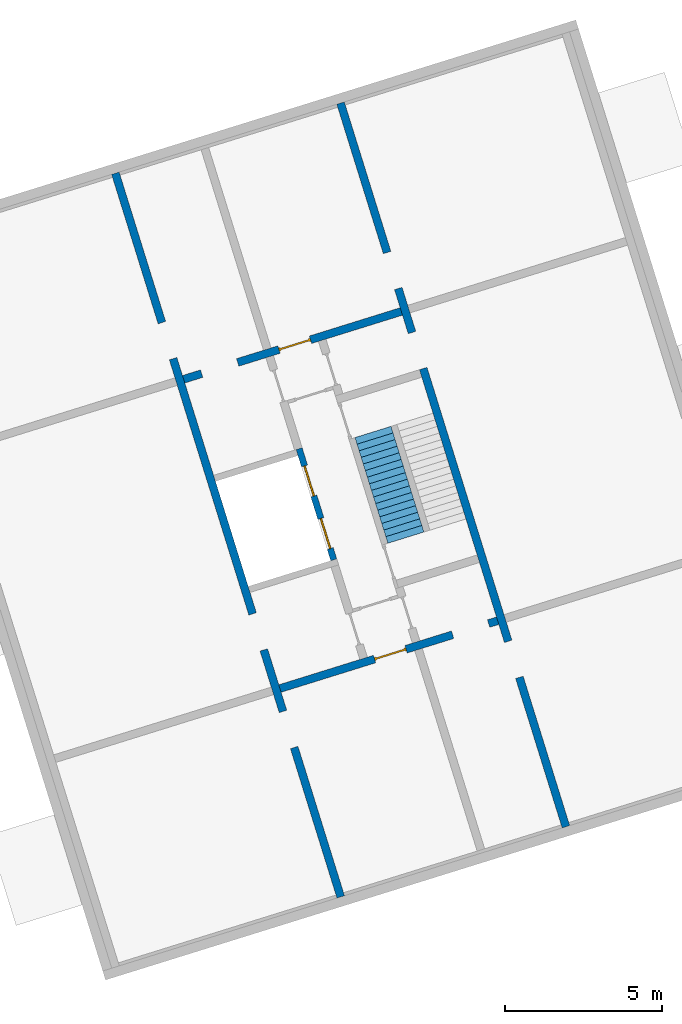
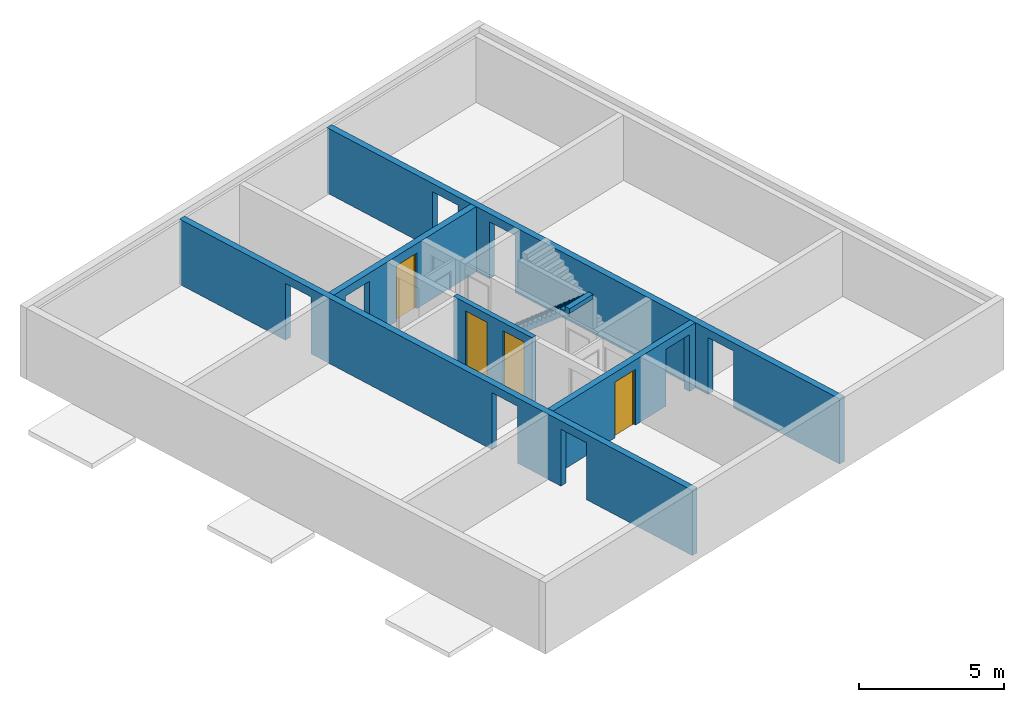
# One storey, part 3 of 4: 5 walls, 4 doors, 1 stair flight, 12 openings, 1 element without a shape of its own.
"""IFC4 building model written with IfcOpenShell, lengths in metres."""

from ifc_helpers import new_model, entity, si_unit, converted_unit, direction, frame, origin, place, context, subcontext, project, spatial, indexed_curve, outline, extrude, polygons, source, transform, mapped, material, constituent, constituent_set, type_object, type_shapes, element, fill, aggregate, save


model = new_model("IFC4")

# Units and contexts
model_context = context("Model", 3, precision=1e-05, world=origin(), true_north=direction((6.12323399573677e-17, 1.0)))
body_context = subcontext(model_context, "Body", "Model", "MODEL_VIEW")
ifc_project = project(units=[si_unit("LENGTHUNIT", "METRE"), si_unit("AREAUNIT", "SQUARE_METRE"), si_unit("VOLUMEUNIT", "CUBIC_METRE"), converted_unit("PLANEANGLEUNIT", "DEGREE", entity("IfcPlaneAngleMeasure", 0.0174532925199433), si_unit("PLANEANGLEUNIT", "RADIAN"), dimensions=[0, 0, 0, 0, 0, 0, 0])], contexts=[model_context])

# Site, building, storey
site_placement = place(None, frame((13.1347999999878, 11.9886000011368, 0.0), z_axis=(0.0, 0.0, 1.0), x_axis=(0.954770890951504, 0.297342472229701, 0.0)))
site = spatial("IfcSite", under=ifc_project, at=site_placement, Name="Schiehaven", CompositionType="ELEMENT")
building_placement = place(site_placement, origin())
building = spatial("IfcBuilding", under=site, at=building_placement, Name="VORM huis", CompositionType="ELEMENT")
storey_placement = place(building_placement, frame((0.0, 0.0, 15.9)))
storey = spatial("IfcBuildingStorey", under=building, at=storey_placement, Name="05 vijfde verdieping", CompositionType="ELEMENT", Elevation=15.9)

# Wall, openings
ifc_material_1 = material(Name="beton_gewapend_ihw", Category="Miscellaneous")
wall_type_1 = type_object("IfcWallType", Name="Basic Wall:28_WA_skelet_wand 250mm_gen", PredefinedType="STANDARD")
wall_1_placement = place(storey_placement, frame((12.5, 5.0, 0.0), z_axis=(0.0, 0.0, 1.0), x_axis=(0.0, 1.0, 0.0)))
wall_1 = element("IfcWall", 1, at=wall_1_placement, inside=storey, type_object=wall_type_1, material=ifc_material_1, Name="Constructieve wand", ObjectType="Wand", PredefinedType="NOTDEFINED", context=body_context, shape_type="Tessellation", body=[
    polygons([(24.1, -0.125, -2.16573425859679e-15), (24.1, -0.125, 2.75), (17.325, -0.124999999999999, 2.75), (17.075, -0.125, 2.75), (7.025, -0.124999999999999, 2.75), (6.775, -0.125, 2.75), (2.16573425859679e-15, -0.124999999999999, 2.75), (2.16573425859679e-15, -0.124999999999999, -2.16573425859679e-15), (4.975, -0.124999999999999, -2.16573425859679e-15), (4.975, -0.124999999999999, 2.4), (6.175, -0.124999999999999, 2.4), (6.175, -0.124999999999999, -2.16573425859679e-15), (6.775, -0.125, -2.16573425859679e-15), (7.025, -0.124999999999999, -2.16573425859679e-15), (8.22500000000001, -0.124999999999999, -2.16573425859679e-15), (8.22500000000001, -0.124999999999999, 2.4), (9.425, -0.124999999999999, 2.4), (9.425, -0.124999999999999, -2.16573425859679e-15), (17.075, -0.125, -2.16573425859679e-15), (17.325, -0.124999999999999, -2.16573425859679e-15), (17.925, -0.125, -2.16573425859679e-15), (17.925, -0.125, 2.4), (19.125, -0.125, 2.4), (19.125, -0.125, -2.16573425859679e-15), (24.1, 0.125, 2.75), (24.1, 0.125, -2.16573425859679e-15), (19.125, 0.125, -2.16573425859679e-15), (19.125, 0.125, 2.4), (17.925, 0.125, 2.4), (17.925, 0.125, -2.16573425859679e-15), (9.425, 0.125, -2.16573425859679e-15), (9.425, 0.125, 2.4), (8.225, 0.125, 2.4), (8.225, 0.125, -2.16573425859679e-15), (6.175, 0.125, -2.16573425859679e-15), (6.175, 0.125, 2.4), (4.975, 0.125000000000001, 2.4), (4.975, 0.125000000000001, -2.16573425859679e-15), (1.08286712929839e-15, 0.125, -2.16573425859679e-15), (0.0, 0.125, 2.75)], [[[1, 2, 3, 4, 5, 6, 7, 8, 9, 10, 11, 12, 13, 14, 15, 16, 17, 18, 19, 20, 21, 22, 23, 24]], [[25, 26, 27, 28, 29, 30, 31, 32, 33, 34, 35, 36, 37, 38, 39, 40]], [[8, 39, 38, 9]], [[2, 1, 26, 25]], [[7, 6, 5, 4, 3, 2, 25, 40]], [[8, 7, 40, 39]], [[10, 37, 36, 11]], [[37, 10, 9, 38]], [[11, 36, 35, 12]], [[16, 33, 32, 17]], [[33, 16, 15, 34]], [[17, 32, 31, 18]], [[22, 29, 28, 23]], [[29, 22, 21, 30]], [[23, 28, 27, 24]], [[12, 35, 34, 15, 14, 13]], [[18, 31, 30, 21, 20, 19]], [[26, 1, 24, 27]]], closed=True),
])
opening_1_placement = place(wall_1_placement, origin())
element("IfcOpeningElement", 2, at=opening_1_placement, cuts=wall_1, Name="Constructieve wand", PredefinedType="OPENING", context=body_context, shape_type="SweptSolid", body=[
    extrude(outline(indexed_curve([(-1.2, -0.599999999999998), (1.2, -0.599999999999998), (1.2, 0.599999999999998), (-1.2, 0.599999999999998), (-1.2, -0.599999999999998)], self_intersect=False)), frame((5.575, -0.124999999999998, 1.2), z_axis=(0.0, 1.0, 0.0), x_axis=(0.0, 0.0, -1.0)), (0.0, 0.0, 1.0), 0.249999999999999),
])
opening_2_placement = place(wall_1_placement, origin())
element("IfcOpeningElement", 3, at=opening_2_placement, cuts=wall_1, Name="Constructieve wand", PredefinedType="OPENING", context=body_context, shape_type="SweptSolid", body=[
    extrude(outline(indexed_curve([(-1.2, -0.599999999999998), (1.2, -0.599999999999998), (1.2, 0.599999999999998), (-1.2, 0.599999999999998), (-1.2, -0.599999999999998)], self_intersect=False)), frame((8.82500000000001, -0.124999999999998, 1.2), z_axis=(0.0, 1.0, 0.0), x_axis=(0.0, 0.0, -1.0)), (0.0, 0.0, 1.0), 0.249999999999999),
])
opening_3_placement = place(wall_1_placement, origin())
element("IfcOpeningElement", 4, at=opening_3_placement, cuts=wall_1, Name="Constructieve wand", PredefinedType="OPENING", context=body_context, shape_type="SweptSolid", body=[
    extrude(outline(indexed_curve([(-1.2, -0.599999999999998), (1.2, -0.599999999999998), (1.2, 0.600000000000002), (-1.2, 0.600000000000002), (-1.2, -0.599999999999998)], self_intersect=False)), frame((18.525, -0.124999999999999, 1.2), z_axis=(0.0, 1.0, 0.0), x_axis=(0.0, 0.0, -1.0)), (0.0, 0.0, 1.0), 0.249999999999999),
])

# Wall, openings, door
wall_2_placement = place(storey_placement, frame((12.6250000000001, 22.2, 0.0)))
wall_2 = element("IfcWall", 5, at=wall_2_placement, inside=storey, type_object=wall_type_1, material=ifc_material_1, Name="Constructieve wand", ObjectType="Wand", PredefinedType="NOTDEFINED", context=body_context, shape_type="Tessellation", body=[
    polygons([(4.225, -0.124999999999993, 2.34999999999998), (4.225, -0.124999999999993, -2.16573425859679e-15), (7.25, -0.124999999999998, -2.16573425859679e-15), (7.25, -0.124999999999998, 2.75), (8.76648531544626e-16, -0.124999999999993, 2.75), (3.04238279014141e-15, -0.124999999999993, -2.16573425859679e-15), (0.600000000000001, -0.124999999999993, -2.16573425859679e-15), (0.600000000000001, -0.124999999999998, 2.4), (1.8, -0.124999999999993, 2.4), (1.8, -0.124999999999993, -2.16573425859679e-15), (3.175, -0.124999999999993, -2.16573425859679e-15), (3.175, -0.124999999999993, 2.34999999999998), (7.25000000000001, 0.125000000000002, -2.16573425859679e-15), (4.225, 0.125000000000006, -2.16573425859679e-15), (4.225, 0.125000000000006, 2.34999999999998), (3.175, 0.125000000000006, 2.34999999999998), (3.175, 0.125000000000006, -2.16573425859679e-15), (1.8, 0.125000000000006, -2.16573425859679e-15), (1.8, 0.125000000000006, 2.4), (0.6, 0.125000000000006, 2.4), (0.6, 0.125000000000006, -2.16573425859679e-15), (2.09575778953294e-15, 0.125000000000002, -2.16573425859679e-15), (2.09575778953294e-15, 0.125000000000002, 2.75), (7.25000000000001, 0.125000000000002, 2.75)], [[[1, 2, 3, 4, 5, 6, 7, 8, 9, 10, 11, 12]], [[13, 14, 15, 16, 17, 18, 19, 20, 21, 22, 23, 24]], [[6, 22, 21, 7]], [[5, 4, 24, 23]], [[17, 16, 12, 11]], [[15, 14, 2, 1]], [[16, 15, 1, 12]], [[20, 8, 7, 21]], [[9, 19, 18, 10]], [[8, 20, 19, 9]], [[4, 3, 13, 24]], [[6, 5, 23, 22]], [[11, 10, 18, 17]], [[3, 2, 14, 13]]], closed=True),
])
opening_4_placement = place(wall_2_placement, origin())
element("IfcOpeningElement", 6, at=opening_4_placement, cuts=wall_2, Name="Constructieve wand", PredefinedType="OPENING", context=body_context, shape_type="SweptSolid", body=[
    extrude(outline(indexed_curve([(-1.2, -0.6), (1.2, -0.6), (1.2, 0.6), (-1.2, 0.6), (-1.2, -0.6)], self_intersect=False)), frame((1.2, -0.125000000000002, 1.2), z_axis=(0.0, 1.0, 0.0), x_axis=(0.0, 0.0, -1.0)), (0.0, 0.0, 1.0), 0.250000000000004),
])
opening_5_placement = place(wall_2_placement, frame((4.225, 0.124999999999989, 0.0)))
opening_5 = element("IfcOpeningElement", 7, at=opening_5_placement, cuts=wall_2, Name="Woningtoegangsdeur", PredefinedType="OPENING", context=body_context, shape_type="SweptSolid", body=[
    extrude(outline(indexed_curve([(2.34999999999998, 1.05), (0.0, 1.05), (0.0, 1.08286712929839e-15), (2.34999999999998, 1.08286712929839e-15), (2.34999999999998, 1.05)], self_intersect=False)), frame((0.0, 0.0, 0.0), z_axis=(0.0, -1.0, 0.0), x_axis=(0.0, 0.0, 1.0)), (0.0, 0.0, 1.0), 0.25),
])
ifc_material_2 = material(Name="PD_a_binnenwandopeningen", Category="Miscellaneous")
ifc_constituent_1 = constituent(ifc_material_2, Name="PD_a_binnenwandopeningen", Category="Miscellaneous")
ifc_material_3 = material(Name="metaal_aluminium_ntb", Category="Miscellaneous")
ifc_constituent_2 = constituent(ifc_material_3, Name="metaal_aluminium_ntb", Category="Miscellaneous")
ifc_constituent_set_1 = constituent_set(constituents=[ifc_constituent_1, ifc_constituent_2])
ifc_constituent_3 = constituent(ifc_material_2, Name="PD_a_binnenwandopeningen", Category="Miscellaneous")
ifc_constituent_4 = constituent(ifc_material_3, Name="Panel", Category="Miscellaneous")
ifc_constituent_set_2 = constituent_set(constituents=[ifc_constituent_3, ifc_constituent_4])
door_type_1 = type_object("IfcDoorType", Name="32_DO_binnendeur enkel:woningtoegangsdeur", OperationType="REVOLVING", PredefinedType="DOOR", material=ifc_constituent_set_2)
shared_shape_1 = source(origin(), body_context, "Body", "SweptSolid", [
    extrude(outline(indexed_curve([(-1.16249999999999, -0.525000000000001), (1.18749999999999, -0.525), (1.18749999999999, 0.525000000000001), (-1.16249999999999, 0.525000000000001), (-1.16249999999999, 0.475), (1.13749999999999, 0.475), (1.13749999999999, -0.475), (-1.16249999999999, -0.475), (-1.16249999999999, -0.525000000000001)], self_intersect=False)), frame((0.525000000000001, 0.0749999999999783, 1.16249999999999), z_axis=(0.0, 1.0, 0.0), x_axis=(0.0, 0.0, 1.0)), (0.0, 0.0, 1.0), 0.1),
    extrude(outline(indexed_curve([(-0.025, -0.475), (0.025, -0.475), (0.025, 0.475), (-0.025, 0.475), (-0.025, -0.475)], self_intersect=False)), frame((0.525000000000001, 0.12499999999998, 0.0), z_axis=(0.0, 0.0, 1.0), x_axis=(0.0, 1.0, 0.0)), (0.0, 0.0, 1.0), 2.29999999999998),
])
type_shapes(door_type_1, [shared_shape_1])
door_1_placement = place(opening_5_placement, frame((0.0, 0.0, 0.0), z_axis=(0.0, 0.0, 1.0), x_axis=(-1.0, 0.0, 0.0)))
door_1 = element("IfcDoor", 8, at=door_1_placement, inside=storey, type_object=door_type_1, material=ifc_constituent_set_1, Name="Woningtoegangsdeur", ObjectType="Deur", OperationType="REVOLVING", OverallHeight=2.34999999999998, OverallWidth=1.05, PredefinedType="DOOR", context=body_context, shape_type="MappedRepresentation", body=[
    mapped(shared_shape_1, transform((0.0, 0.0, 0.0), scale=1.0)),
])
fill(opening_5, door_1)

# Wall, openings
wall_3_placement = place(storey_placement, frame((20.0, 29.1, 0.0), z_axis=(0.0, 0.0, 1.0), x_axis=(0.0, -1.0, 0.0)))
wall_3 = element("IfcWall", 9, at=wall_3_placement, inside=storey, type_object=wall_type_1, material=ifc_material_1, Name="Constructieve wand", ObjectType="Wand", PredefinedType="NOTDEFINED", context=body_context, shape_type="Tessellation", body=[
    polygons([(24.1, -0.124999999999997, -2.16573425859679e-15), (24.1, -0.124999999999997, 2.75), (17.325, -0.124999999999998, 2.75), (17.075, -0.125, 2.75), (7.02499999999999, -0.124999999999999, 2.75), (6.77499999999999, -0.124999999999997, 2.75), (0.0, -0.124999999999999, 2.75), (0.0, -0.124999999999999, -2.16573425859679e-15), (4.975, -0.125, -2.16573425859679e-15), (4.975, -0.125000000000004, 2.4), (6.175, -0.124999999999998, 2.4), (6.175, -0.124999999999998, -2.16573425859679e-15), (6.77499999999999, -0.124999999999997, -2.16573425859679e-15), (7.02499999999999, -0.124999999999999, -2.16573425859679e-15), (7.64, -0.124999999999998, -2.16573425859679e-15), (7.64, -0.124999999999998, 2.4), (8.84, -0.124999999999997, 2.4), (8.84, -0.124999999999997, -2.16573425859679e-15), (17.075, -0.125, -2.16573425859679e-15), (17.325, -0.124999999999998, -2.16573425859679e-15), (17.925, -0.124999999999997, -2.16573425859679e-15), (17.925, -0.124999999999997, 2.4), (19.125, -0.125000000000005, 2.4), (19.125, -0.124999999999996, -2.16573425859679e-15), (24.1, 0.125000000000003, 2.75), (24.1, 0.125000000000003, -2.16573425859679e-15), (19.125, 0.124999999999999, -2.16573425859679e-15), (19.125, 0.124999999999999, 2.4), (17.925, 0.125000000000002, 2.4), (17.925, 0.125000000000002, -2.16573425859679e-15), (8.83999999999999, 0.125000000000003, -2.16573425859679e-15), (8.83999999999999, 0.125000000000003, 2.4), (7.64, 0.125000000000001, 2.4), (7.64, 0.125000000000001, -2.16573425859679e-15), (6.17499999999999, 0.125000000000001, -2.16573425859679e-15), (6.17499999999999, 0.125000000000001, 2.4), (4.975, 0.125, 2.4), (4.975, 0.125, -2.16573425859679e-15), (-4.33146851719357e-15, 0.125000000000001, -2.16573425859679e-15), (-4.33146851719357e-15, 0.125000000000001, 2.75)], [[[1, 2, 3, 4, 5, 6, 7, 8, 9, 10, 11, 12, 13, 14, 15, 16, 17, 18, 19, 20, 21, 22, 23, 24]], [[25, 26, 27, 28, 29, 30, 31, 32, 33, 34, 35, 36, 37, 38, 39, 40]], [[8, 39, 38, 9]], [[2, 1, 26, 25]], [[7, 6, 5, 4, 3, 2, 25, 40]], [[8, 7, 40, 39]], [[10, 37, 36, 11]], [[37, 10, 9, 38]], [[11, 36, 35, 12]], [[16, 33, 32, 17]], [[33, 16, 15, 34]], [[17, 32, 31, 18]], [[22, 29, 28, 23]], [[29, 22, 21, 30]], [[23, 28, 27, 24]], [[12, 35, 34, 15, 14, 13]], [[18, 31, 30, 21, 20, 19]], [[26, 1, 24, 27]]], closed=True),
])
opening_6_placement = place(wall_3_placement, origin())
element("IfcOpeningElement", 10, at=opening_6_placement, cuts=wall_3, Name="Constructieve wand", PredefinedType="OPENING", context=body_context, shape_type="SweptSolid", body=[
    extrude(outline(indexed_curve([(-1.2, -0.599999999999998), (1.2, -0.599999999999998), (1.2, 0.599999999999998), (-1.2, 0.599999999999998), (-1.2, -0.599999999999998)], self_intersect=False)), frame((5.575, -0.125000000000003, 1.2), z_axis=(0.0, 1.0, 0.0), x_axis=(0.0, 0.0, -1.0)), (0.0, 0.0, 1.0), 0.250000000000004),
])
opening_7_placement = place(wall_3_placement, origin())
element("IfcOpeningElement", 11, at=opening_7_placement, cuts=wall_3, Name="Constructieve wand", PredefinedType="OPENING", context=body_context, shape_type="SweptSolid", body=[
    extrude(outline(indexed_curve([(-1.2, -0.599999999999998), (1.2, -0.599999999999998), (1.2, 0.599999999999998), (-1.2, 0.599999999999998), (-1.2, -0.599999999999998)], self_intersect=False)), frame((8.24, -0.125000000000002, 1.2), z_axis=(0.0, 1.0, 0.0), x_axis=(0.0, 0.0, -1.0)), (0.0, 0.0, 1.0), 0.250000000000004),
])
opening_8_placement = place(wall_3_placement, origin())
element("IfcOpeningElement", 12, at=opening_8_placement, cuts=wall_3, Name="Constructieve wand", PredefinedType="OPENING", context=body_context, shape_type="SweptSolid", body=[
    extrude(outline(indexed_curve([(-1.2, -0.599999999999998), (1.2, -0.599999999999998), (1.2, 0.599999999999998), (-1.2, 0.599999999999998), (-1.2, -0.599999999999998)], self_intersect=False)), frame((18.525, -0.125000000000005, 1.2), z_axis=(0.0, 1.0, 0.0), x_axis=(0.0, 0.0, -1.0)), (0.0, 0.0, 1.0), 0.250000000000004),
])

# Wall, openings, door
wall_4_placement = place(storey_placement, frame((19.875, 11.9, 0.0), z_axis=(0.0, 0.0, 1.0), x_axis=(-1.0, 0.0, 0.0)))
wall_4 = element("IfcWall", 13, at=wall_4_placement, inside=storey, type_object=wall_type_1, material=ifc_material_1, Name="Constructieve wand", ObjectType="Wand", PredefinedType="NOTDEFINED", context=body_context, shape_type="Tessellation", body=[
    polygons([(4.09999999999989, -0.125, 2.34999999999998), (4.09999999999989, -0.125, -2.16573425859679e-15), (7.24999999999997, -0.125, -2.16573425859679e-15), (7.24999999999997, -0.125, 2.75), (-7.13030427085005e-16, -0.125, 2.75), (-7.13030427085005e-16, -0.125, -2.16573425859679e-15), (0.299999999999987, -0.125, -2.16573425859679e-15), (0.299999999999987, -0.125, 2.4), (1.49999999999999, -0.125, 2.4), (1.49999999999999, -0.125, -2.16573425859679e-15), (3.04999999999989, -0.125, -2.16573425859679e-15), (3.04999999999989, -0.125, 2.34999999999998), (7.24999999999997, 0.125, -2.16573425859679e-15), (4.09999999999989, 0.125, -2.16573425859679e-15), (4.09999999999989, 0.125, 2.34999999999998), (3.04999999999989, 0.125, 2.34999999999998), (3.04999999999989, 0.125, -2.16573425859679e-15), (1.49999999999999, 0.125, -2.16573425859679e-15), (1.49999999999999, 0.125, 2.4), (0.299999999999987, 0.125, 2.4), (0.299999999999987, 0.125, -2.16573425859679e-15), (-8.78309150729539e-16, 0.125, -2.16573425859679e-15), (-8.78309150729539e-16, 0.125, 2.75), (7.24999999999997, 0.125, 2.75)], [[[1, 2, 3, 4, 5, 6, 7, 8, 9, 10, 11, 12]], [[13, 14, 15, 16, 17, 18, 19, 20, 21, 22, 23, 24]], [[6, 22, 21, 7]], [[5, 4, 24, 23]], [[17, 16, 12, 11]], [[15, 14, 2, 1]], [[16, 15, 1, 12]], [[8, 20, 19, 9]], [[20, 8, 7, 21]], [[9, 19, 18, 10]], [[6, 5, 23, 22]], [[4, 3, 13, 24]], [[11, 10, 18, 17]], [[3, 2, 14, 13]]], closed=True),
])
opening_9_placement = place(wall_4_placement, origin())
element("IfcOpeningElement", 14, at=opening_9_placement, cuts=wall_4, Name="Constructieve wand", PredefinedType="OPENING", context=body_context, shape_type="SweptSolid", body=[
    extrude(outline(indexed_curve([(-1.2, -0.599999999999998), (1.2, -0.599999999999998), (1.2, 0.600000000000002), (-1.2, 0.600000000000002), (-1.2, -0.599999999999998)], self_intersect=False)), frame((0.89999999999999, -0.125, 1.2), z_axis=(0.0, 1.0, 0.0), x_axis=(0.0, 0.0, -1.0)), (0.0, 0.0, 1.0), 0.249999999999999),
])
opening_10_placement = place(wall_4_placement, frame((4.09999999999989, 0.124999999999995, 0.0)))
opening_10 = element("IfcOpeningElement", 15, at=opening_10_placement, cuts=wall_4, Name="Woningtoegangsdeur", PredefinedType="OPENING", context=body_context, shape_type="SweptSolid", body=[
    extrude(outline(indexed_curve([(2.34999999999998, 1.05), (0.0, 1.05), (0.0, 1.08286712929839e-15), (2.34999999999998, 1.08286712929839e-15), (2.34999999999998, 1.05)], self_intersect=False)), frame((0.0, 0.0, 0.0), z_axis=(0.0, -1.0, 0.0), x_axis=(0.0, 0.0, 1.0)), (0.0, 0.0, 1.0), 0.25),
])
ifc_constituent_5 = constituent(ifc_material_2, Name="PD_a_binnenwandopeningen", Category="Miscellaneous")
ifc_constituent_6 = constituent(ifc_material_3, Name="metaal_aluminium_ntb", Category="Miscellaneous")
ifc_constituent_set_3 = constituent_set(constituents=[ifc_constituent_5, ifc_constituent_6])
door_2_placement = place(opening_10_placement, frame((0.0, 0.0, 0.0), z_axis=(0.0, 0.0, 1.0), x_axis=(-1.0, 0.0, 0.0)))
door_2 = element("IfcDoor", 16, at=door_2_placement, inside=storey, type_object=door_type_1, material=ifc_constituent_set_3, Name="Woningtoegangsdeur", ObjectType="Deur", OperationType="REVOLVING", OverallHeight=2.34999999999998, OverallWidth=1.05, PredefinedType="DOOR", context=body_context, shape_type="MappedRepresentation", body=[
    mapped(shared_shape_1, transform((0.0, 0.0, 0.0), scale=1.0)),
])
fill(opening_10, door_2)

# Wall, openings, doors
ifc_material_4 = material(Name="beton_gewapend_prefab-element", Category="Miscellaneous")
wall_type_2 = type_object("IfcWallType", Name="Basic Wall:28_WA_skelet_wand 200mm_gen", PredefinedType="STANDARD")
wall_5_placement = place(storey_placement, frame((15.4750000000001, 15.3, 0.0), z_axis=(0.0, 0.0, 1.0), x_axis=(0.0, 1.0, 0.0)))
wall_5 = element("IfcWall", 17, at=wall_5_placement, inside=storey, type_object=wall_type_2, material=ifc_material_4, Name="Constructieve wand", ObjectType="Wand", PredefinedType="NOTDEFINED", context=body_context, shape_type="Tessellation", body=[
    polygons([(3.69999999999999, -0.100000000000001, 2.75), (0.0, -0.100000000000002, 2.75), (0.0, -0.100000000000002, -2.16573425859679e-15), (0.374999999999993, -0.0999999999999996, -2.16573425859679e-15), (0.374999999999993, -0.100000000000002, 2.39999999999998), (1.37499999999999, -0.100000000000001, 2.39999999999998), (1.37499999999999, -0.100000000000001, -2.16573425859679e-15), (2.125, -0.100000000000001, -2.16573425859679e-15), (2.125, -0.100000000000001, 2.39999999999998), (3.125, -0.100000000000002, 2.39999999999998), (3.12499999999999, -0.1, -2.16573425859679e-15), (3.69999999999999, -0.100000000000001, -2.16573425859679e-15), (2.16573425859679e-15, 0.0999999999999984, 2.75), (3.49999999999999, 0.0999999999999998, 2.75), (3.69999999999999, 0.0999999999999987, 2.75), (3.69999999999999, 0.0999999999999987, -2.16573425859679e-15), (3.49999999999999, 0.0999999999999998, -2.16573425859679e-15), (3.125, 0.0999999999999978, -2.16573425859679e-15), (3.125, 0.0999999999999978, 2.39999999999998), (2.125, 0.0999999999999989, 2.39999999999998), (2.125, 0.0999999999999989, -2.16573425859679e-15), (1.37499999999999, 0.100000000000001, -2.16573425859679e-15), (1.37499999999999, 0.100000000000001, 2.39999999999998), (0.374999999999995, 0.0999999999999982, 2.39999999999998), (0.374999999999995, 0.0999999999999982, -2.16573425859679e-15), (0.0, 0.0999999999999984, -2.16573425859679e-15)], [[[1, 2, 3, 4, 5, 6, 7, 8, 9, 10, 11, 12]], [[13, 14, 15, 16, 17, 18, 19, 20, 21, 22, 23, 24, 25, 26]], [[4, 3, 26, 25]], [[2, 1, 15, 14, 13]], [[6, 23, 22, 7]], [[24, 5, 4, 25]], [[23, 6, 5, 24]], [[10, 19, 18, 11]], [[20, 9, 8, 21]], [[19, 10, 9, 20]], [[1, 12, 16, 15]], [[3, 2, 13, 26]], [[7, 22, 21, 8]], [[16, 12, 11, 18, 17]]], closed=True),
])
opening_11_placement = place(wall_5_placement, frame((-15.3, 15.4750000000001, 0.0), z_axis=(0.0, 0.0, 1.0), x_axis=(0.0, -1.0, 0.0)))
opening_11 = element("IfcOpeningElement", 18, at=opening_11_placement, cuts=wall_5, Name="Brandweerlift", PredefinedType="OPENING", context=body_context, shape_type="SweptSolid", body=[
    extrude(outline(indexed_curve([(-1.19999999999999, -0.499999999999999), (1.19999999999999, -0.499999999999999), (1.19999999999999, 0.500000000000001), (-1.19999999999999, 0.500000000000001), (-1.19999999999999, -0.499999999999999)], self_intersect=False)), frame((15.7436720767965, 16.175, 1.19999999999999), z_axis=(-1.0, 0.0, 0.0), x_axis=(0.0, 0.0, -1.0)), (0.0, 0.0, 1.0), 0.756310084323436),
])
opening_12_placement = place(wall_5_placement, frame((-15.3, 15.4750000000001, 0.0), z_axis=(0.0, 0.0, 1.0), x_axis=(0.0, -1.0, 0.0)))
opening_12 = element("IfcOpeningElement", 19, at=opening_12_placement, cuts=wall_5, Name="Brandweerlift", PredefinedType="OPENING", context=body_context, shape_type="SweptSolid", body=[
    extrude(outline(indexed_curve([(-1.19999999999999, -0.500000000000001), (1.19999999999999, -0.500000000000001), (1.19999999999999, 0.499999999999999), (-1.19999999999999, 0.499999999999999), (-1.19999999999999, -0.500000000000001)], self_intersect=False)), frame((15.7436720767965, 17.925, 1.19999999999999), z_axis=(-1.0, 0.0, 0.0), x_axis=(0.0, 0.0, -1.0)), (0.0, 0.0, 1.0), 0.756310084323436),
])
door_type_2 = type_object("IfcDoorType", Name="66_WI_liftdeur:brandweerlift - tweezijdig toegankelijk", OperationType="NOTDEFINED", PredefinedType="DOOR", material=ifc_material_3)
shared_shape_2 = source(origin(), body_context, "Body", "SweptSolid", [
    extrude(outline(indexed_curve([(-0.0250000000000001, -0.25), (0.0249999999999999, -0.25), (0.0250000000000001, 0.25), (-0.0249999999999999, 0.25), (-0.0250000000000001, -0.25)], self_intersect=False)), frame((0.250000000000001, 0.487638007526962, 0.0), z_axis=(0.0, 0.0, 1.0), x_axis=(0.0, 1.0, 0.0)), (0.0, 0.0, 1.0), 2.39999999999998),
    extrude(outline(indexed_curve([(-0.0250000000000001, -0.25), (0.0249999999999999, -0.25), (0.0250000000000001, 0.25), (-0.0249999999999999, 0.25), (-0.0250000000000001, -0.25)], self_intersect=False)), frame((0.750000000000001, 0.48763800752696, 0.0), z_axis=(0.0, 0.0, 1.0), x_axis=(0.0, 1.0, 0.0)), (0.0, 0.0, 1.0), 2.39999999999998),
])
type_shapes(door_type_2, [shared_shape_2])
door_3_placement = place(opening_11_placement, frame((14.9873619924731, 16.675, 0.0), z_axis=(0.0, 0.0, 1.0), x_axis=(0.0, -1.0, 0.0)))
door_3 = element("IfcDoor", 20, at=door_3_placement, inside=storey, type_object=door_type_2, material=ifc_material_3, Name="Brandweerlift", ObjectType="Transport", OperationType="NOTDEFINED", OverallHeight=2.39999999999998, OverallWidth=1.0, PredefinedType="DOOR", context=body_context, shape_type="MappedRepresentation", body=[
    mapped(shared_shape_2, transform((0.0, 0.0, 0.0), scale=1.0)),
])
fill(opening_11, door_3)
door_4_placement = place(opening_12_placement, frame((14.9873619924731, 18.425, 0.0), z_axis=(0.0, 0.0, 1.0), x_axis=(0.0, -1.0, 0.0)))
door_4 = element("IfcDoor", 21, at=door_4_placement, inside=storey, type_object=door_type_2, material=ifc_material_3, Name="Brandweerlift", ObjectType="Transport", OperationType="NOTDEFINED", OverallHeight=2.39999999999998, OverallWidth=1.0, PredefinedType="DOOR", context=body_context, shape_type="MappedRepresentation", body=[
    mapped(shared_shape_2, transform((0.0, 0.0, 0.0), scale=1.0)),
])
fill(opening_12, door_4)

# Stair, stair flight
stair_type = type_object("IfcStairType", Name="Trap", PredefinedType="STRAIGHT_RUN_STAIR")
stair_placement = place(storey_placement, origin())
stair = element("IfcStair", 22, at=stair_placement, inside=storey, type_object=stair_type, Name="Hoofdtrap", ObjectType="Trap", PredefinedType="STRAIGHT_RUN_STAIR")
stair_flight_type = type_object("IfcStairFlightType", Name="Monolithic Run:NLRS_24_STRR_trap-beton prefab-monolithisch-recht_gen_rsf", PredefinedType="STRAIGHT")
stair_flight_placement = place(stair_placement, frame((17.2750000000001, 15.29, 0.0)))
stair_flight = element("IfcStairFlight", 23, at=stair_flight_placement, type_object=stair_flight_type, material=ifc_material_4, Name="Hoofdtrap Run 1", ObjectType="Monolithic Run:NLRS_24_STRR_trap-beton prefab-monolithisch-recht_gen_rsf", PredefinedType="STRAIGHT", context=body_context, shape_type="Tessellation", body=[
    polygons([(1.20000000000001, 3.3, 0.187500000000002), (1.20000000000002, 3.52, 0.187500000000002), (1.77635683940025e-14, 3.52, 0.187500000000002), (1.77635683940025e-14, 3.30000000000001, 0.187500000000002), (1.20000000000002, 3.29999999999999, 0.0), (1.20000000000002, 3.52, 0.0), (1.77635683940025e-14, 3.52, 0.0), (1.77635683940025e-14, 3.30000000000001, 0.0), (1.20000000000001, 3.08, 0.374999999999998), (1.20000000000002, 3.30000000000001, 0.374999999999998), (1.77635683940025e-14, 3.30000000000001, 0.374999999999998), (1.77635683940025e-14, 3.08000000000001, 0.374999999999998), (1.20000000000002, 3.08000000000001, 0.177912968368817), (1.20000000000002, 3.28875121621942, 0.0), (1.77635683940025e-14, 3.28875121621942, 0.0), (1.77635683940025e-14, 3.08000000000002, 0.17791296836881), (1.20000000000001, 2.86, 0.562499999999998), (1.20000000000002, 3.08, 0.562499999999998), (1.4210854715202e-14, 3.08, 0.562499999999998), (1.4210854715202e-14, 2.86000000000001, 0.562499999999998), (1.20000000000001, 2.86, 0.365412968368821), (1.4210854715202e-14, 2.86000000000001, 0.365412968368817), (1.20000000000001, 2.64, 0.750000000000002), (1.20000000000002, 2.86000000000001, 0.750000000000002), (1.4210854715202e-14, 2.86000000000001, 0.750000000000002), (1.4210854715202e-14, 2.64000000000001, 0.750000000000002), (1.20000000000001, 2.64, 0.552912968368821), (1.4210854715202e-14, 2.64000000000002, 0.552912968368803), (1.20000000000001, 2.42, 0.937499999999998), (1.20000000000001, 2.64, 0.937499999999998), (1.06581410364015e-14, 2.64, 0.937499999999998), (1.06581410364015e-14, 2.42000000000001, 0.937499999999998), (1.20000000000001, 2.41999999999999, 0.740412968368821), (1.06581410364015e-14, 2.42000000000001, 0.740412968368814), (1.20000000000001, 2.2, 1.125), (1.20000000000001, 2.42000000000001, 1.125), (1.06581410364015e-14, 2.42000000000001, 1.125), (1.06581410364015e-14, 2.20000000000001, 1.125), (1.20000000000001, 2.2, 0.927912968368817), (1.06581410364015e-14, 2.20000000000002, 0.927912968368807), (1.20000000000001, 1.98, 1.3125), (1.20000000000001, 2.2, 1.3125), (1.06581410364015e-14, 2.2, 1.3125), (1.06581410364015e-14, 1.98000000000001, 1.3125), (1.20000000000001, 1.97999999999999, 1.11541296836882), (1.06581410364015e-14, 1.98000000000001, 1.11541296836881), (1.20000000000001, 1.76, 1.5), (1.20000000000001, 1.98000000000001, 1.5), (1.06581410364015e-14, 1.98000000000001, 1.5), (1.06581410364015e-14, 1.76000000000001, 1.5), (1.20000000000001, 1.76, 1.30291296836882), (7.105427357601e-15, 1.76000000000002, 1.30291296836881), (1.20000000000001, 1.54, 1.6875), (1.20000000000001, 1.76, 1.6875), (7.105427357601e-15, 1.76, 1.6875), (7.105427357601e-15, 1.54000000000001, 1.6875), (1.2, 1.54, 1.49041296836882), (7.105427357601e-15, 1.54000000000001, 1.49041296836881), (1.20000000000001, 1.32, 1.875), (1.20000000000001, 1.54000000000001, 1.875), (7.105427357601e-15, 1.54000000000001, 1.875), (7.105427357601e-15, 1.32000000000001, 1.875), (1.2, 1.32, 1.67791296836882), (7.105427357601e-15, 1.32000000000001, 1.67791296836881), (1.2, 1.1, 2.0625), (1.2, 1.32, 2.0625), (7.105427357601e-15, 1.32, 2.0625), (7.105427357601e-15, 1.10000000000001, 2.0625), (1.2, 1.1, 1.86541296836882), (7.105427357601e-15, 1.10000000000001, 1.86541296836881), (1.2, 0.880000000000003, 2.25), (1.2, 1.10000000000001, 2.25), (7.105427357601e-15, 1.10000000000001, 2.25), (7.105427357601e-15, 0.88000000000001, 2.25), (1.2, 0.880000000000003, 2.05291296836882), (7.105427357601e-15, 0.880000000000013, 2.05291296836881), (1.2, 0.660000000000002, 2.4375), (1.2, 0.880000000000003, 2.4375), (3.5527136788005e-15, 0.880000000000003, 2.4375), (3.5527136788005e-15, 0.660000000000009, 2.4375), (1.2, 0.659999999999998, 2.24041296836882), (3.5527136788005e-15, 0.660000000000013, 2.24041296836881), (1.2, 0.440000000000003, 2.625), (1.2, 0.660000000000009, 2.625), (3.5527136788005e-15, 0.660000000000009, 2.625), (3.5527136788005e-15, 0.440000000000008, 2.625), (1.2, 0.440000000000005, 2.42791296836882), (3.5527136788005e-15, 0.440000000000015, 2.42791296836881), (1.2, 0.220000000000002, 2.8125), (1.2, 0.440000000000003, 2.8125), (0.0, 0.440000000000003, 2.8125), (0.0, 0.22000000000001, 2.8125), (1.2, 0.219999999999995, 2.61541296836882), (0.0, 0.220000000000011, 2.61541296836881), (1.2, 0.0, 3.0), (1.2, 0.22000000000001, 3.0), (0.0, 0.22000000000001, 3.0), (0.0, 1.06581410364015e-14, 3.0), (1.2, 0.0, 2.80291296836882), (0.0, 1.06581410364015e-14, 2.80291296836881)], [[[1, 2, 3, 4]], [[2, 1, 5, 6]], [[3, 2, 6, 7]], [[4, 3, 7, 8]], [[9, 10, 11, 12]], [[5, 1, 10, 9, 13, 14]], [[1, 4, 11, 10]], [[4, 8, 15, 16, 12, 11]], [[17, 18, 19, 20]], [[18, 17, 21, 13, 9]], [[9, 12, 19, 18]], [[20, 19, 12, 16, 22]], [[23, 24, 25, 26]], [[24, 23, 27, 21, 17]], [[17, 20, 25, 24]], [[26, 25, 20, 22, 28]], [[29, 30, 31, 32]], [[30, 29, 33, 27, 23]], [[23, 26, 31, 30]], [[32, 31, 26, 28, 34]], [[35, 36, 37, 38]], [[36, 35, 39, 33, 29]], [[29, 32, 37, 36]], [[38, 37, 32, 34, 40]], [[41, 42, 43, 44]], [[42, 41, 45, 39, 35]], [[35, 38, 43, 42]], [[44, 43, 38, 40, 46]], [[47, 48, 49, 50]], [[48, 47, 51, 45, 41]], [[41, 44, 49, 48]], [[50, 49, 44, 46, 52]], [[53, 54, 55, 56]], [[54, 53, 57, 51, 47]], [[47, 50, 55, 54]], [[56, 55, 50, 52, 58]], [[59, 60, 61, 62]], [[60, 59, 63, 57, 53]], [[53, 56, 61, 60]], [[62, 61, 56, 58, 64]], [[65, 66, 67, 68]], [[66, 65, 69, 63, 59]], [[59, 62, 67, 66]], [[68, 67, 62, 64, 70]], [[71, 72, 73, 74]], [[72, 71, 75, 69, 65]], [[65, 68, 73, 72]], [[74, 73, 68, 70, 76]], [[77, 78, 79, 80]], [[78, 77, 81, 75, 71]], [[71, 74, 79, 78]], [[80, 79, 74, 76, 82]], [[83, 84, 85, 86]], [[84, 83, 87, 81, 77]], [[77, 80, 85, 84]], [[86, 85, 80, 82, 88]], [[89, 90, 91, 92]], [[90, 89, 93, 87, 83]], [[83, 86, 91, 90]], [[92, 91, 86, 88, 94]], [[95, 96, 97, 98]], [[96, 95, 99, 93, 89]], [[89, 92, 97, 96]], [[98, 97, 92, 94, 100]], [[95, 98, 100, 99]], [[6, 5, 14, 15, 8, 7]], [[15, 14, 13, 21, 27, 33, 39, 45, 51, 57, 63, 69, 75, 81, 87, 93, 99, 100, 94, 88, 82, 76, 70, 64, 58, 52, 46, 40, 34, 28, 22, 16]]], closed=True),
])
aggregate(stair, [stair_flight])

save(model, "model.ifc")
